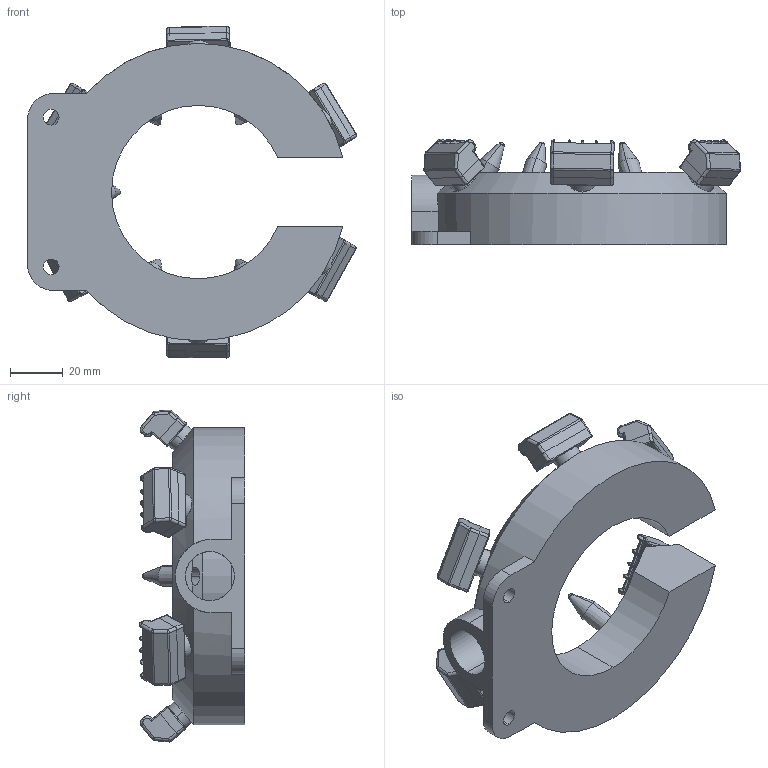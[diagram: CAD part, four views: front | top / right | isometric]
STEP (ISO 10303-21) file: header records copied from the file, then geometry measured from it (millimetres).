
FILE_DESCRIPTION (( 'STEP AP203' ), '1' );
FILE_NAME ('Silvent 455.STEP', '2008-04-18T13:23:17', ( ' ' ), ( ' ' ), 'SwSTEP 2.0', 'SolidWorks 2006303', '' );
FILE_SCHEMA (( 'CONFIG_CONTROL_DESIGN' ));
Length unit declared in the file: millimetre
Products named in the file (1): Silvent 455
Bounding box: 125.28 x 40.27 x 126.42 mm (x, y, z)
Volume: 120368.8 mm3; surface area: 55883 mm2
Topology: 12 solids, 12 shells, 1473 faces, 3716 edges, 2315 vertices
Faces by surface type: plane 760, cylinder 463, torus 144, cone 72, sphere 34
Entity records: 45279 total; most frequent: CARTESIAN_POINT 9408, DIRECTION 7594, ORIENTED_EDGE 7408, EDGE_CURVE 3704, AXIS2_PLACEMENT_3D 2565, VECTOR 2464, LINE 2464, VERTEX_POINT 2315
